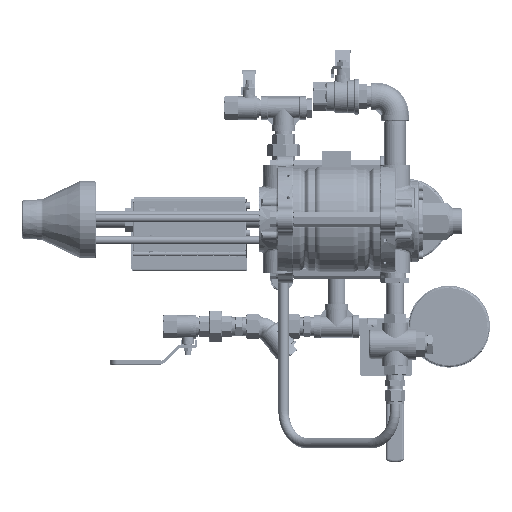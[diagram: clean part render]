
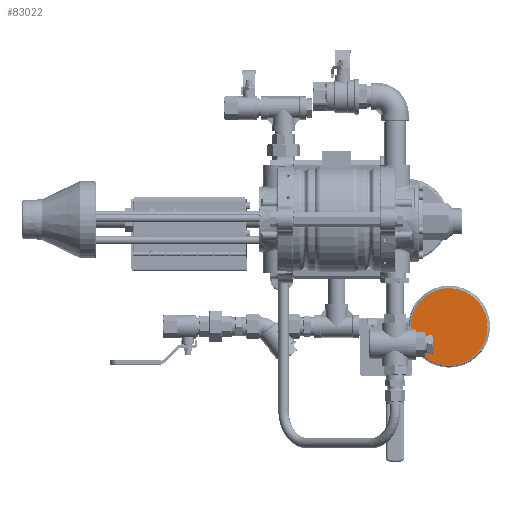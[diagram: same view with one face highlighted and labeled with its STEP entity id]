
A CAD part, top view. The second image highlights one B-rep face of the part: STEP entity #83022.
In plain terms, the highlighted planar face has unit normal (0, 0, 1).
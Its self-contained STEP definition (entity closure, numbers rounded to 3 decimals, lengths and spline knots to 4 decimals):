
#15018=PLANE('',#90125);
#21773=FACE_OUTER_BOUND('',#27931,.T.);
#27931=EDGE_LOOP('',(#66716));
#32076=CIRCLE('',#90112,1.8701);
#38509=VERTEX_POINT('',#140001);
#48283=EDGE_CURVE('',#38509,#38509,#32076,.T.);
#66716=ORIENTED_EDGE('',*,*,#48283,.F.);
#83022=ADVANCED_FACE('',(#21773),#15018,.F.);
#90112=AXIS2_PLACEMENT_3D('',#140002,#107673,#107674);
#90125=AXIS2_PLACEMENT_3D('',#140021,#107699,#107700);
#107673=DIRECTION('center_axis',(0.,0.,
-1.));
#107674=DIRECTION('ref_axis',(0.,1.,0.));
#107699=DIRECTION('center_axis',(0.,0.,
-1.));
#107700=DIRECTION('ref_axis',(0.,1.,0.));
#140001=CARTESIAN_POINT('',(20.8006,-0.3168,-0.791));
#140002=CARTESIAN_POINT('Origin',(20.8006,1.5532,-0.791));
#140021=CARTESIAN_POINT('Origin',(20.8006,1.5532,-0.791));
